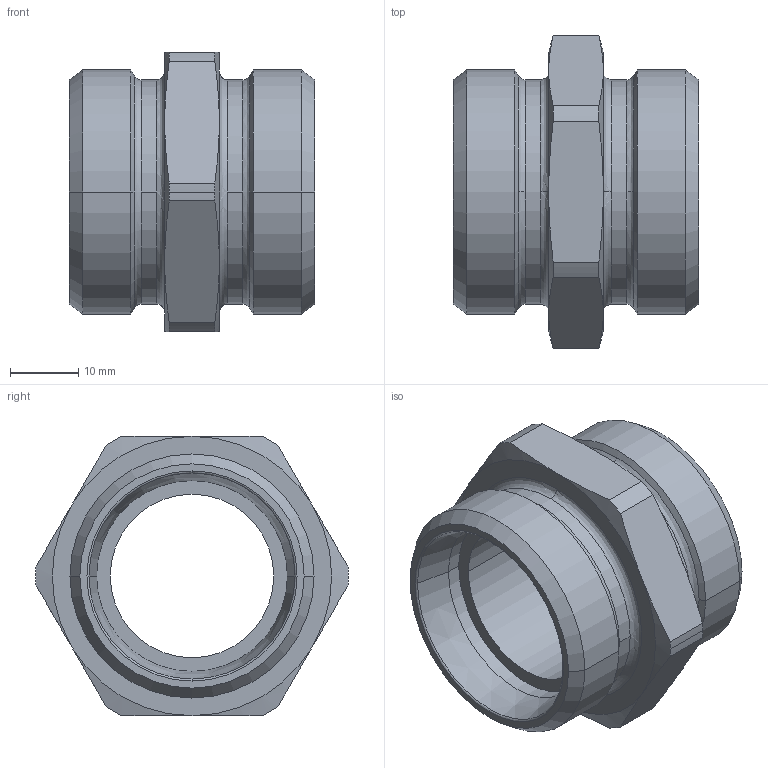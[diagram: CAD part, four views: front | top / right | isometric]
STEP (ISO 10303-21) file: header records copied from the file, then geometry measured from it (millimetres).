
FILE_DESCRIPTION((''),'2;1');
FILE_NAME('103511.stp','2007-10-31T11:33:56',(''),(''),'AutoCAD STEP 2000i','AutoCAD 2000i',', , ');
FILE_SCHEMA(('CONFIG_CONTROL_DESIGN'));
Length unit declared in the file: millimetre
Products named in the file (2): 103511.0; CHIAVE SMUSSATA#0
Assembly tree (1 placements, depth 2):
  103511.0
    CHIAVE SMUSSATA#0
Bounding box: 36 x 45.9 x 41 mm (x, y, z)
Volume: 18710 mm3; surface area: 8990.9 mm2
Topology: 1 solids, 1 shells, 70 faces, 172 edges, 108 vertices
Faces by surface type: cone 24, cylinder 22, plane 12, bspline 8, torus 4
Entity records: 2513 total; most frequent: CARTESIAN_POINT 752, DIRECTION 384, ORIENTED_EDGE 344, AXIS2_PLACEMENT_3D 172, EDGE_CURVE 172, VERTEX_POINT 108, CIRCLE 108, EDGE_LOOP 76
